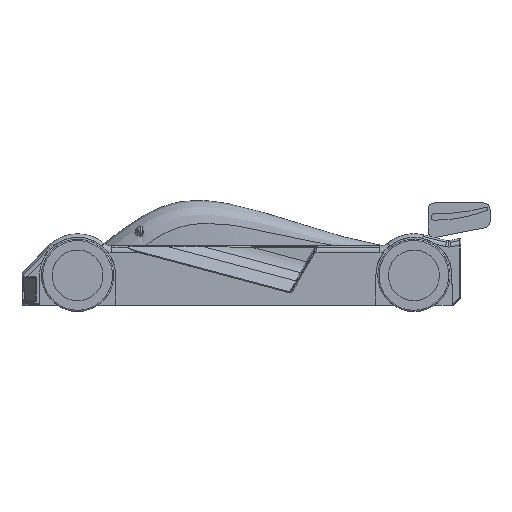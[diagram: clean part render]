
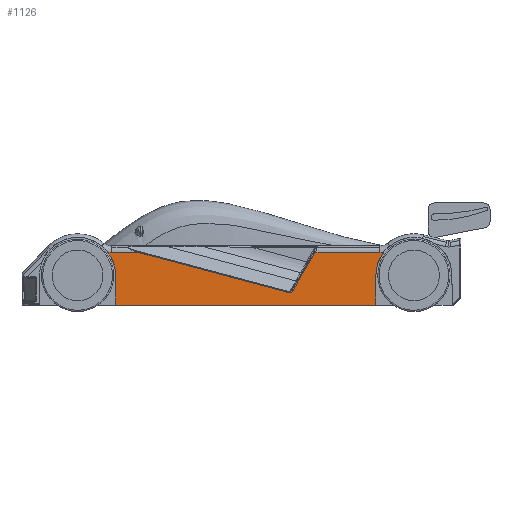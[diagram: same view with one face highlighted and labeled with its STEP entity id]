
A CAD part, front view. The second image highlights one B-rep face of the part: STEP entity #1126.
In plain terms, the highlighted planar face has unit normal (0, -1, 0).
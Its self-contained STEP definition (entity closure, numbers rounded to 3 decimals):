
#1126=ADVANCED_FACE('21:450',(#2650),#2651,.F.);
#2650=FACE_OUTER_BOUND('',#8336,.T.);
#2651=PLANE('',#8337);
#8336=EDGE_LOOP('',(#17344,#17345,#17346,#17347,#17348,#17349,#17350,#17351,#17352,#17353,#17354,#17355));
#8337=AXIS2_PLACEMENT_3D('',#17356,#17357,#17358);
#17344=ORIENTED_EDGE('',*,*,#21682,.F.);
#17345=ORIENTED_EDGE('',*,*,#21199,.F.);
#17346=ORIENTED_EDGE('',*,*,#22066,.T.);
#17347=ORIENTED_EDGE('',*,*,#22178,.T.);
#17348=ORIENTED_EDGE('',*,*,#22179,.F.);
#17349=ORIENTED_EDGE('',*,*,#22180,.T.);
#17350=ORIENTED_EDGE('',*,*,#22181,.T.);
#17351=ORIENTED_EDGE('',*,*,#22182,.F.);
#17352=ORIENTED_EDGE('',*,*,#21151,.F.);
#17353=ORIENTED_EDGE('',*,*,#22183,.F.);
#17354=ORIENTED_EDGE('',*,*,#22184,.F.);
#17355=ORIENTED_EDGE('',*,*,#22185,.F.);
#17356=CARTESIAN_POINT('',(1231.25,-840.0,0.));
#17357=DIRECTION('',(0.0,1.0,0.0));
#17358=DIRECTION('',(-1.0,0.0,0.));
#21151=EDGE_CURVE('20:26039',#23448,#23450,#23451,.T.);
#21199=EDGE_CURVE('20:26271',#23536,#23538,#23539,.T.);
#21682=EDGE_CURVE('21:436',#23538,#24374,#24375,.T.);
#22066=EDGE_CURVE('20:26296',#23536,#24988,#24990,.T.);
#22178=EDGE_CURVE('13:8430',#24988,#25162,#25163,.T.);
#22179=EDGE_CURVE('21:466',#25164,#25162,#25165,.T.);
#22180=EDGE_CURVE('13:8870',#25164,#25166,#25167,.T.);
#22181=EDGE_CURVE('20:26049',#25166,#25168,#25169,.T.);
#22182=EDGE_CURVE('20:26030',#23450,#25168,#25170,.T.);
#22183=EDGE_CURVE('20:26747',#25171,#23448,#25172,.T.);
#22184=EDGE_CURVE('20:26753',#25173,#25171,#25174,.T.);
#22185=EDGE_CURVE('20:26762',#24374,#25173,#25175,.T.);
#23448=VERTEX_POINT('',#26762);
#23450=VERTEX_POINT('',#26764);
#23451=LINE('',#26765,#26766);
#23536=VERTEX_POINT('',#26863);
#23538=VERTEX_POINT('',#26874);
#23539=CIRCLE('',#26875,150.0);
#24374=VERTEX_POINT('',#28559);
#24375=LINE('',#28560,#28561);
#24988=VERTEX_POINT('',#29586);
#24990=CIRCLE('',#29589,300.0);
#25162=VERTEX_POINT('',#30482);
#25163=LINE('',#30483,#30484);
#25164=VERTEX_POINT('',#30485);
#25165=LINE('',#30486,#30487);
#25166=VERTEX_POINT('',#30488);
#25167=LINE('',#30489,#30490);
#25168=VERTEX_POINT('',#30491);
#25169=CIRCLE('',#30492,300.0);
#25170=CIRCLE('',#30493,150.0);
#25171=VERTEX_POINT('',#30494);
#25172=LINE('',#30495,#30496);
#25173=VERTEX_POINT('',#30497);
#25174=ELLIPSE('',#30498,24.309,20.0);
#25175=LINE('',#30499,#30500);
#26762=CARTESIAN_POINT('',(1843.569,-840.0,406.599));
#26764=CARTESIAN_POINT('',(2353.39,-840.0,406.599));
#26765=CARTESIAN_POINT('',(1264.75,-840.0,406.599));
#26766=VECTOR('',#32902,1.0);
#26863=CARTESIAN_POINT('',(209.003,-840.0,410.528));
#26874=CARTESIAN_POINT('',(243.11,-840.0,406.599));
#26875=AXIS2_PLACEMENT_3D('',#32993,#32994,#32995);
#28559=CARTESIAN_POINT('',(448.875,-840.0,406.599));
#28560=CARTESIAN_POINT('',(1264.75,-840.0,406.599));
#28561=VECTOR('',#33756,1.0);
#29586=CARTESIAN_POINT('',(273.25,-840.0,225.0));
#29589=AXIS2_PLACEMENT_3D('',#34331,#34332,#34333);
#30482=CARTESIAN_POINT('',(273.25,-840.0,-10.));
#30483=CARTESIAN_POINT('',(273.25,-840.0,53.75));
#30484=VECTOR('',#34470,1.0);
#30485=CARTESIAN_POINT('',(2323.25,-840.0,-10.));
#30486=CARTESIAN_POINT('',(1082.875,-840.0,-10.));
#30487=VECTOR('',#34471,1.0);
#30488=CARTESIAN_POINT('',(2323.25,-840.0,225.0));
#30489=CARTESIAN_POINT('',(2323.25,-840.0,53.75));
#30490=VECTOR('',#34472,1.0);
#30491=CARTESIAN_POINT('',(2387.497,-840.0,410.528));
#30492=AXIS2_PLACEMENT_3D('',#34473,#34474,#34475);
#30493=AXIS2_PLACEMENT_3D('',#34476,#34477,#34478);
#30494=CARTESIAN_POINT('',(1666.758,-840.0,100.353));
#30495=CARTESIAN_POINT('',(1669.272,-840.0,104.707));
#30496=VECTOR('',#34479,1.0);
#30497=CARTESIAN_POINT('',(1641.304,-840.0,87.64));
#30498=AXIS2_PLACEMENT_3D('',#34480,#34481,#34482);
#30499=CARTESIAN_POINT('',(1166.171,-840.0,214.732));
#30500=VECTOR('',#34483,1.0);
#32902=DIRECTION('',(1.0,-0.0,0.));
#32993=CARTESIAN_POINT('',(243.11,-840.0,556.599));
#32994=DIRECTION('',(0.0,-1.0,-0.0));
#32995=DIRECTION('',(-0.335,0.0,-0.942));
#33756=DIRECTION('',(1.0,-0.0,0.));
#34331=CARTESIAN_POINT('',(-26.75,-840.0,225.0));
#34332=DIRECTION('',(0.0,1.0,-0.0));
#34333=DIRECTION('',(-1.0,0.0,0.0));
#34470=DIRECTION('',(0.0,-0.0,-1.0));
#34471=DIRECTION('',(-1.0,-0.0,0.));
#34472=DIRECTION('',(-0.0,0.0,1.0));
#34473=CARTESIAN_POINT('',(2623.25,-840.0,225.0));
#34474=DIRECTION('',(0.0,1.0,-0.0));
#34475=DIRECTION('',(-1.0,0.0,0.0));
#34476=CARTESIAN_POINT('',(2353.39,-840.0,556.599));
#34477=DIRECTION('',(0.0,-1.0,0.0));
#34478=DIRECTION('',(0.335,0.0,-0.942));
#34479=DIRECTION('',(0.5,-0.0,0.866));
#34480=CARTESIAN_POINT('',(1649.438,-840.0,110.353));
#34481=DIRECTION('',(0.0,-1.0,-0.0));
#34482=DIRECTION('',(-0.5,0.0,-0.866));
#34483=DIRECTION('',(0.966,-0.0,-0.258));
